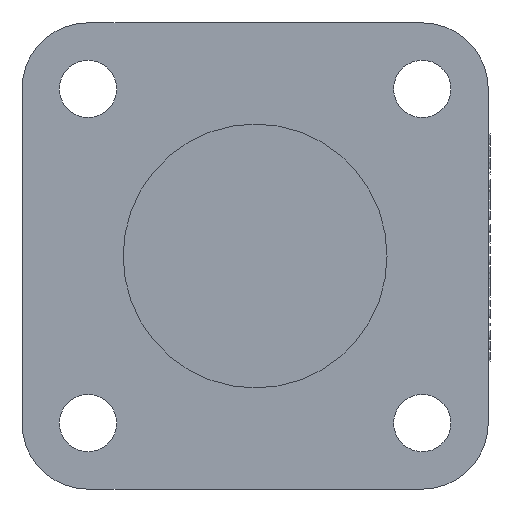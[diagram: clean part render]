
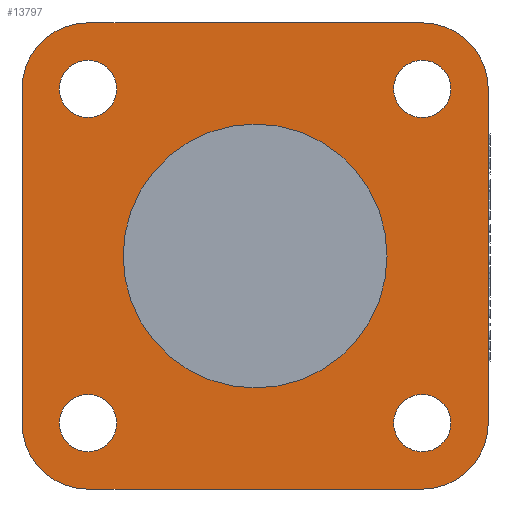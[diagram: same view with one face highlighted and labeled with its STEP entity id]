
A CAD part, left-side view. The second image highlights one B-rep face of the part: STEP entity #13797.
In plain terms, the highlighted planar face has unit normal (-1, 0, 0).
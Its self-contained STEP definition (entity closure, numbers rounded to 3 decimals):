
#12617=CARTESIAN_POINT('Line Origine',(-9.,-26.5,0.)) ;
#12621=CARTESIAN_POINT('Vertex',(-9.,-26.5,19.)) ;
#12623=CARTESIAN_POINT('Vertex',(-9.,-26.5,-19.)) ;
#13372=CARTESIAN_POINT('Vertex',(-9.,22.25,19.)) ;
#13375=CARTESIAN_POINT('Axis2P3D Location',(-9.,19.,19.)) ;
#13379=CARTESIAN_POINT('Vertex',(-9.,15.75,19.)) ;
#13394=CARTESIAN_POINT('Axis2P3D Location',(-9.,19.,19.)) ;
#13415=CARTESIAN_POINT('Vertex',(-9.,22.25,-19.)) ;
#13418=CARTESIAN_POINT('Axis2P3D Location',(-9.,19.,-19.)) ;
#13422=CARTESIAN_POINT('Vertex',(-9.,15.75,-19.)) ;
#13437=CARTESIAN_POINT('Axis2P3D Location',(-9.,19.,-19.)) ;
#13458=CARTESIAN_POINT('Vertex',(-9.,-22.25,-19.)) ;
#13461=CARTESIAN_POINT('Axis2P3D Location',(-9.,-19.,-19.)) ;
#13465=CARTESIAN_POINT('Vertex',(-9.,-15.75,-19.)) ;
#13480=CARTESIAN_POINT('Axis2P3D Location',(-9.,-19.,-19.)) ;
#13501=CARTESIAN_POINT('Vertex',(-9.,-22.25,19.)) ;
#13504=CARTESIAN_POINT('Axis2P3D Location',(-9.,-19.,19.)) ;
#13508=CARTESIAN_POINT('Vertex',(-9.,-15.75,19.)) ;
#13523=CARTESIAN_POINT('Axis2P3D Location',(-9.,-19.,19.)) ;
#13681=CARTESIAN_POINT('Vertex',(-9.,15.,0.)) ;
#13684=CARTESIAN_POINT('Axis2P3D Location',(-9.,0.,0.)) ;
#13688=CARTESIAN_POINT('Vertex',(-9.,-15.,0.)) ;
#13703=CARTESIAN_POINT('Axis2P3D Location',(-9.,0.,0.)) ;
#13715=CARTESIAN_POINT('Axis2P3D Location',(-9.,0.,0.)) ;
#13720=CARTESIAN_POINT('Line Origine',(-9.,0.,26.5)) ;
#13724=CARTESIAN_POINT('Vertex',(-9.,19.,26.5)) ;
#13726=CARTESIAN_POINT('Vertex',(-9.,-19.,26.5)) ;
#13729=CARTESIAN_POINT('Axis2P3D Location',(-9.,19.,19.)) ;
#13733=CARTESIAN_POINT('Vertex',(-9.,26.5,19.)) ;
#13736=CARTESIAN_POINT('Line Origine',(-9.,26.5,0.)) ;
#13740=CARTESIAN_POINT('Vertex',(-9.,26.5,-19.)) ;
#13743=CARTESIAN_POINT('Axis2P3D Location',(-9.,19.,-19.)) ;
#13747=CARTESIAN_POINT('Vertex',(-9.,19.,-26.5)) ;
#13750=CARTESIAN_POINT('Line Origine',(-9.,0.,-26.5)) ;
#13754=CARTESIAN_POINT('Vertex',(-9.,-19.,-26.5)) ;
#13757=CARTESIAN_POINT('Axis2P3D Location',(-9.,-19.,-19.)) ;
#13762=CARTESIAN_POINT('Axis2P3D Location',(-9.,-19.,19.)) ;
#12618=DIRECTION('Vector Direction',(0.,0.,-1.)) ;
#13376=DIRECTION('Axis2P3D Direction',(1.,0.,0.)) ;
#13395=DIRECTION('Axis2P3D Direction',(1.,0.,0.)) ;
#13419=DIRECTION('Axis2P3D Direction',(1.,0.,0.)) ;
#13438=DIRECTION('Axis2P3D Direction',(1.,0.,0.)) ;
#13462=DIRECTION('Axis2P3D Direction',(1.,0.,0.)) ;
#13481=DIRECTION('Axis2P3D Direction',(1.,0.,0.)) ;
#13505=DIRECTION('Axis2P3D Direction',(1.,0.,0.)) ;
#13524=DIRECTION('Axis2P3D Direction',(1.,0.,0.)) ;
#13685=DIRECTION('Axis2P3D Direction',(-1.,-0.,0.)) ;
#13704=DIRECTION('Axis2P3D Direction',(-1.,-0.,0.)) ;
#13716=DIRECTION('Axis2P3D Direction',(1.,0.,0.)) ;
#13717=DIRECTION('Axis2P3D XDirection',(0.,1.,0.)) ;
#13721=DIRECTION('Vector Direction',(0.,1.,0.)) ;
#13730=DIRECTION('Axis2P3D Direction',(1.,0.,0.)) ;
#13737=DIRECTION('Vector Direction',(0.,0.,1.)) ;
#13744=DIRECTION('Axis2P3D Direction',(1.,0.,0.)) ;
#13751=DIRECTION('Vector Direction',(0.,-1.,0.)) ;
#13758=DIRECTION('Axis2P3D Direction',(1.,0.,0.)) ;
#13763=DIRECTION('Axis2P3D Direction',(1.,0.,0.)) ;
#13377=AXIS2_PLACEMENT_3D('Circle Axis2P3D',#13375,#13376,$) ;
#13396=AXIS2_PLACEMENT_3D('Circle Axis2P3D',#13394,#13395,$) ;
#13420=AXIS2_PLACEMENT_3D('Circle Axis2P3D',#13418,#13419,$) ;
#13439=AXIS2_PLACEMENT_3D('Circle Axis2P3D',#13437,#13438,$) ;
#13463=AXIS2_PLACEMENT_3D('Circle Axis2P3D',#13461,#13462,$) ;
#13482=AXIS2_PLACEMENT_3D('Circle Axis2P3D',#13480,#13481,$) ;
#13506=AXIS2_PLACEMENT_3D('Circle Axis2P3D',#13504,#13505,$) ;
#13525=AXIS2_PLACEMENT_3D('Circle Axis2P3D',#13523,#13524,$) ;
#13686=AXIS2_PLACEMENT_3D('Circle Axis2P3D',#13684,#13685,$) ;
#13705=AXIS2_PLACEMENT_3D('Circle Axis2P3D',#13703,#13704,$) ;
#13718=AXIS2_PLACEMENT_3D('Plane Axis2P3D',#13715,#13716,#13717) ;
#13731=AXIS2_PLACEMENT_3D('Circle Axis2P3D',#13729,#13730,$) ;
#13745=AXIS2_PLACEMENT_3D('Circle Axis2P3D',#13743,#13744,$) ;
#13759=AXIS2_PLACEMENT_3D('Circle Axis2P3D',#13757,#13758,$) ;
#13764=AXIS2_PLACEMENT_3D('Circle Axis2P3D',#13762,#13763,$) ;
#13768=ORIENTED_EDGE('',*,*,#13728,.F.) ;
#13769=ORIENTED_EDGE('',*,*,#13735,.F.) ;
#13770=ORIENTED_EDGE('',*,*,#13742,.F.) ;
#13771=ORIENTED_EDGE('',*,*,#13749,.F.) ;
#13772=ORIENTED_EDGE('',*,*,#13756,.F.) ;
#13773=ORIENTED_EDGE('',*,*,#13761,.F.) ;
#13774=ORIENTED_EDGE('',*,*,#12625,.F.) ;
#13775=ORIENTED_EDGE('',*,*,#13766,.F.) ;
#13778=ORIENTED_EDGE('',*,*,#13690,.F.) ;
#13779=ORIENTED_EDGE('',*,*,#13707,.F.) ;
#13782=ORIENTED_EDGE('',*,*,#13510,.T.) ;
#13783=ORIENTED_EDGE('',*,*,#13527,.T.) ;
#13786=ORIENTED_EDGE('',*,*,#13467,.T.) ;
#13787=ORIENTED_EDGE('',*,*,#13484,.T.) ;
#13790=ORIENTED_EDGE('',*,*,#13424,.T.) ;
#13791=ORIENTED_EDGE('',*,*,#13441,.T.) ;
#13794=ORIENTED_EDGE('',*,*,#13381,.T.) ;
#13795=ORIENTED_EDGE('',*,*,#13398,.T.) ;
#13780=FACE_BOUND('',#13777,.T.) ;
#13784=FACE_BOUND('',#13781,.T.) ;
#13788=FACE_BOUND('',#13785,.T.) ;
#13792=FACE_BOUND('',#13789,.T.) ;
#13796=FACE_BOUND('',#13793,.T.) ;
#12619=VECTOR('Line Direction',#12618,1.) ;
#13722=VECTOR('Line Direction',#13721,1.) ;
#13738=VECTOR('Line Direction',#13737,1.) ;
#13752=VECTOR('Line Direction',#13751,1.) ;
#13797=ADVANCED_FACE('PartBody',(#13776,#13780,#13784,#13788,#13792,#13796),#13719,.F.) ;
#13378=CIRCLE('generated circle',#13377,3.25) ;
#13397=CIRCLE('generated circle',#13396,3.25) ;
#13421=CIRCLE('generated circle',#13420,3.25) ;
#13440=CIRCLE('generated circle',#13439,3.25) ;
#13464=CIRCLE('generated circle',#13463,3.25) ;
#13483=CIRCLE('generated circle',#13482,3.25) ;
#13507=CIRCLE('generated circle',#13506,3.25) ;
#13526=CIRCLE('generated circle',#13525,3.25) ;
#13687=CIRCLE('generated circle',#13686,15.) ;
#13706=CIRCLE('generated circle',#13705,15.) ;
#13732=CIRCLE('generated circle',#13731,7.5) ;
#13746=CIRCLE('generated circle',#13745,7.5) ;
#13760=CIRCLE('generated circle',#13759,7.5) ;
#13765=CIRCLE('generated circle',#13764,7.5) ;
#12625=EDGE_CURVE('',#12622,#12624,#12620,.T.) ;
#13381=EDGE_CURVE('',#13380,#13373,#13378,.T.) ;
#13398=EDGE_CURVE('',#13373,#13380,#13397,.T.) ;
#13424=EDGE_CURVE('',#13423,#13416,#13421,.T.) ;
#13441=EDGE_CURVE('',#13416,#13423,#13440,.T.) ;
#13467=EDGE_CURVE('',#13466,#13459,#13464,.T.) ;
#13484=EDGE_CURVE('',#13459,#13466,#13483,.T.) ;
#13510=EDGE_CURVE('',#13509,#13502,#13507,.T.) ;
#13527=EDGE_CURVE('',#13502,#13509,#13526,.T.) ;
#13690=EDGE_CURVE('',#13682,#13689,#13687,.T.) ;
#13707=EDGE_CURVE('',#13689,#13682,#13706,.T.) ;
#13728=EDGE_CURVE('',#13725,#13727,#13723,.F.) ;
#13735=EDGE_CURVE('',#13734,#13725,#13732,.T.) ;
#13742=EDGE_CURVE('',#13741,#13734,#13739,.T.) ;
#13749=EDGE_CURVE('',#13748,#13741,#13746,.T.) ;
#13756=EDGE_CURVE('',#13755,#13748,#13753,.F.) ;
#13761=EDGE_CURVE('',#12624,#13755,#13760,.T.) ;
#13766=EDGE_CURVE('',#13727,#12622,#13765,.T.) ;
#13767=EDGE_LOOP('',(#13768,#13769,#13770,#13771,#13772,#13773,#13774,#13775)) ;
#13777=EDGE_LOOP('',(#13778,#13779)) ;
#13781=EDGE_LOOP('',(#13782,#13783)) ;
#13785=EDGE_LOOP('',(#13786,#13787)) ;
#13789=EDGE_LOOP('',(#13790,#13791)) ;
#13793=EDGE_LOOP('',(#13794,#13795)) ;
#13776=FACE_OUTER_BOUND('',#13767,.T.) ;
#12620=LINE('Line',#12617,#12619) ;
#13723=LINE('Line',#13720,#13722) ;
#13739=LINE('Line',#13736,#13738) ;
#13753=LINE('Line',#13750,#13752) ;
#13719=PLANE('',#13718) ;
#12622=VERTEX_POINT('',#12621) ;
#12624=VERTEX_POINT('',#12623) ;
#13373=VERTEX_POINT('',#13372) ;
#13380=VERTEX_POINT('',#13379) ;
#13416=VERTEX_POINT('',#13415) ;
#13423=VERTEX_POINT('',#13422) ;
#13459=VERTEX_POINT('',#13458) ;
#13466=VERTEX_POINT('',#13465) ;
#13502=VERTEX_POINT('',#13501) ;
#13509=VERTEX_POINT('',#13508) ;
#13682=VERTEX_POINT('',#13681) ;
#13689=VERTEX_POINT('',#13688) ;
#13725=VERTEX_POINT('',#13724) ;
#13727=VERTEX_POINT('',#13726) ;
#13734=VERTEX_POINT('',#13733) ;
#13741=VERTEX_POINT('',#13740) ;
#13748=VERTEX_POINT('',#13747) ;
#13755=VERTEX_POINT('',#13754) ;
